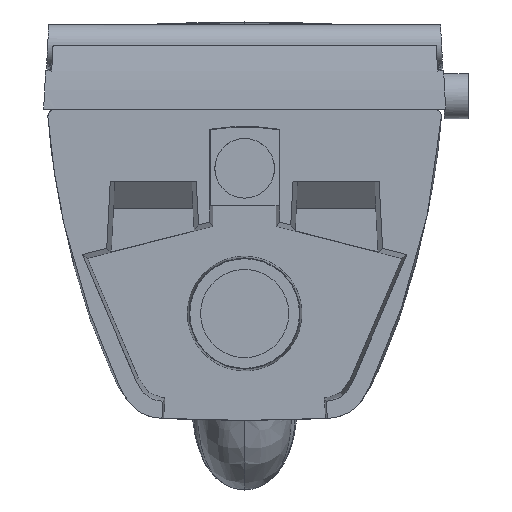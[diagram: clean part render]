
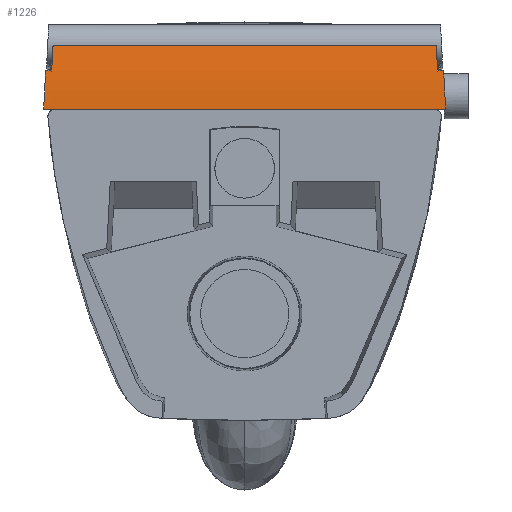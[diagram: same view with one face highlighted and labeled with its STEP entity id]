
A CAD part, left-side view. The second image highlights one B-rep face of the part: STEP entity #1226.
In plain terms, the highlighted cylindrical face has radius 364.592 mm (diameter 729.185 mm), a partial arc.
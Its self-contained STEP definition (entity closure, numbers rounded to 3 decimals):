
#63=ELLIPSE('',#4089,365.112,364.592);
#67=ELLIPSE('',#4095,365.112,364.592);
#68=ELLIPSE('',#4096,6902.849,364.592);
#69=ELLIPSE('',#4097,6950.963,364.592);
#70=ELLIPSE('',#4098,6950.963,364.592);
#71=ELLIPSE('',#4099,6902.848,364.592);
#118=CYLINDRICAL_SURFACE('',#4100,364.592);
#302=FACE_OUTER_BOUND('',#1569,.T.);
#483=LINE('',#10340,#635);
#508=LINE('',#22526,#666);
#511=LINE('',#22583,#669);
#512=LINE('',#22585,#670);
#517=LINE('',#22768,#675);
#635=VECTOR('',#4303,1.);
#666=VECTOR('',#4400,1.);
#669=VECTOR('',#4407,1.);
#670=VECTOR('',#4408,1.);
#675=VECTOR('',#4443,1.);
#846=B_SPLINE_CURVE_WITH_KNOTS('',3,(#9723,#9724,#9725,#9726),
 .UNSPECIFIED.,.F.,.F.,(4,4),(0.,1.),.UNSPECIFIED.);
#857=B_SPLINE_CURVE_WITH_KNOTS('',3,(#9891,#9892,#9893,#9894),
 .UNSPECIFIED.,.F.,.F.,(4,4),(0.,1.),.UNSPECIFIED.);
#916=B_SPLINE_CURVE_WITH_KNOTS('',3,(#22763,#22764,#22765,#22766),
 .UNSPECIFIED.,.F.,.F.,(4,4),(0.,1.),.UNSPECIFIED.);
#917=B_SPLINE_CURVE_WITH_KNOTS('',3,(#22770,#22771,#22772,#22773),
 .UNSPECIFIED.,.F.,.F.,(4,4),(0.,1.),.UNSPECIFIED.);
#1226=ADVANCED_FACE('',(#302),#118,.T.);
#1569=EDGE_LOOP('',(#2152,#2153,#2154,#2155,#2156,#2157,#2158,#2159,#2160,
#2161,#2162,#2163,#2164,#2165,#2166));
#2152=ORIENTED_EDGE('',*,*,#3511,.T.);
#2153=ORIENTED_EDGE('',*,*,#3498,.T.);
#2154=ORIENTED_EDGE('',*,*,#3584,.T.);
#2155=ORIENTED_EDGE('',*,*,#3583,.T.);
#2156=ORIENTED_EDGE('',*,*,#3612,.T.);
#2157=ORIENTED_EDGE('',*,*,#3613,.F.);
#2158=ORIENTED_EDGE('',*,*,#3614,.F.);
#2159=ORIENTED_EDGE('',*,*,#3615,.T.);
#2160=ORIENTED_EDGE('',*,*,#3616,.F.);
#2161=ORIENTED_EDGE('',*,*,#3617,.T.);
#2162=ORIENTED_EDGE('',*,*,#3618,.F.);
#2163=ORIENTED_EDGE('',*,*,#3619,.F.);
#2164=ORIENTED_EDGE('',*,*,#3598,.T.);
#2165=ORIENTED_EDGE('',*,*,#3574,.T.);
#2166=ORIENTED_EDGE('',*,*,#3509,.T.);
#3065=VERTEX_POINT('',#9727);
#3066=VERTEX_POINT('',#9728);
#3067=VERTEX_POINT('',#9890);
#3068=VERTEX_POINT('',#9895);
#3104=VERTEX_POINT('',#22527);
#3111=VERTEX_POINT('',#22582);
#3112=VERTEX_POINT('',#22584);
#3124=VERTEX_POINT('',#22676);
#3135=VERTEX_POINT('',#22758);
#3136=VERTEX_POINT('',#22760);
#3137=VERTEX_POINT('',#22762);
#3138=VERTEX_POINT('',#22767);
#3139=VERTEX_POINT('',#22769);
#3140=VERTEX_POINT('',#22774);
#3141=VERTEX_POINT('',#22776);
#3498=EDGE_CURVE('',#3065,#3066,#846,.T.);
#3509=EDGE_CURVE('',#3068,#3067,#857,.T.);
#3511=EDGE_CURVE('',#3067,#3065,#483,.T.);
#3574=EDGE_CURVE('',#3104,#3068,#508,.T.);
#3583=EDGE_CURVE('',#3112,#3111,#511,.T.);
#3584=EDGE_CURVE('',#3066,#3112,#512,.T.);
#3598=EDGE_CURVE('',#3124,#3104,#63,.T.);
#3612=EDGE_CURVE('',#3111,#3135,#67,.T.);
#3613=EDGE_CURVE('',#3136,#3135,#68,.T.);
#3614=EDGE_CURVE('',#3137,#3136,#69,.T.);
#3615=EDGE_CURVE('',#3137,#3138,#916,.T.);
#3616=EDGE_CURVE('',#3139,#3138,#517,.T.);
#3617=EDGE_CURVE('',#3139,#3140,#917,.T.);
#3618=EDGE_CURVE('',#3141,#3140,#70,.T.);
#3619=EDGE_CURVE('',#3124,#3141,#71,.T.);
#4089=AXIS2_PLACEMENT_3D('',#22675,#4422,#4423);
#4095=AXIS2_PLACEMENT_3D('',#22757,#4437,#4438);
#4096=AXIS2_PLACEMENT_3D('',#22759,#4439,#4440);
#4097=AXIS2_PLACEMENT_3D('',#22761,#4441,#4442);
#4098=AXIS2_PLACEMENT_3D('',#22775,#4444,#4445);
#4099=AXIS2_PLACEMENT_3D('',#22777,#4446,#4447);
#4100=AXIS2_PLACEMENT_3D('',#22778,#4448,#4449);
#4303=DIRECTION('',(0.,-1.,0.));
#4400=DIRECTION('',(0.,-1.,0.));
#4407=DIRECTION('',(0.,-1.,0.));
#4408=DIRECTION('',(0.,-1.,0.));
#4422=DIRECTION('',(-0.01,-0.999,-0.052));
#4423=DIRECTION('',(0.183,-0.053,0.982));
#4437=DIRECTION('',(-0.01,0.999,-0.052));
#4438=DIRECTION('',(-0.183,-0.053,-0.982));
#4439=DIRECTION('',(0.047,0.053,0.997));
#4440=DIRECTION('',(0.002,-0.999,0.053));
#4441=DIRECTION('',(0.047,0.052,0.998));
#4442=DIRECTION('',(0.002,-0.999,0.052));
#4443=DIRECTION('',(0.,-1.,0.));
#4444=DIRECTION('',(0.047,-0.052,0.998));
#4445=DIRECTION('',(-0.002,-0.999,-0.052));
#4446=DIRECTION('',(0.047,-0.053,0.997));
#4447=DIRECTION('',(-0.002,-0.999,-0.053));
#4448=DIRECTION('',(0.,-1.,0.));
#4449=DIRECTION('',(0.,0.,1.));
#9723=CARTESIAN_POINT('',(47.36,-176.008,0.));
#9724=CARTESIAN_POINT('',(47.36,-176.134,0.));
#9725=CARTESIAN_POINT('',(47.36,-176.261,-0.003));
#9726=CARTESIAN_POINT('',(47.36,-176.387,-0.01));
#9727=CARTESIAN_POINT('',(47.36,-176.008,0.));
#9728=CARTESIAN_POINT('',(47.36,-176.387,-0.01));
#9890=CARTESIAN_POINT('',(47.36,176.007,0.));
#9891=CARTESIAN_POINT('',(47.36,176.387,-0.01));
#9892=CARTESIAN_POINT('',(47.36,176.261,-0.003));
#9893=CARTESIAN_POINT('',(47.36,176.134,0.));
#9894=CARTESIAN_POINT('',(47.36,176.007,0.));
#9895=CARTESIAN_POINT('',(47.36,176.387,-0.01));
#10340=CARTESIAN_POINT('',(47.36,3504.591,0.));
#22526=CARTESIAN_POINT('',(47.36,3504.591,-0.01));
#22527=CARTESIAN_POINT('',(47.36,186.909,-0.01));
#22582=CARTESIAN_POINT('',(47.36,-186.909,-0.01));
#22583=CARTESIAN_POINT('',(47.36,3504.591,-0.01));
#22584=CARTESIAN_POINT('',(47.36,-176.427,-0.01));
#22585=CARTESIAN_POINT('',(47.36,3504.591,-0.01));
#22675=CARTESIAN_POINT('',(411.815,183.862,-10.022));
#22676=CARTESIAN_POINT('',(50.113,185.003,35.797));
#22757=CARTESIAN_POINT('',(411.815,-183.862,-10.022));
#22758=CARTESIAN_POINT('',(50.113,-185.003,35.797));
#22759=CARTESIAN_POINT('',(411.815,356.792,-10.022));
#22760=CARTESIAN_POINT('',(50.109,-184.389,35.765));
#22761=CARTESIAN_POINT('',(411.815,360.514,-10.022));
#22762=CARTESIAN_POINT('',(50.076,-179.395,35.504));
#22763=CARTESIAN_POINT('',(50.076,-179.395,35.504));
#22764=CARTESIAN_POINT('',(51.157,-178.944,44.093));
#22765=CARTESIAN_POINT('',(52.472,-178.524,52.079));
#22766=CARTESIAN_POINT('',(53.904,-178.135,59.46));
#22767=CARTESIAN_POINT('',(53.904,-178.135,59.46));
#22768=CARTESIAN_POINT('',(53.904,0.,59.46));
#22769=CARTESIAN_POINT('',(53.904,178.135,59.46));
#22770=CARTESIAN_POINT('',(53.904,178.135,59.46));
#22771=CARTESIAN_POINT('',(52.471,178.524,52.078));
#22772=CARTESIAN_POINT('',(51.157,178.944,44.093));
#22773=CARTESIAN_POINT('',(50.076,179.395,35.504));
#22774=CARTESIAN_POINT('',(50.076,179.395,35.504));
#22775=CARTESIAN_POINT('',(411.815,-360.514,-10.022));
#22776=CARTESIAN_POINT('',(50.109,184.389,35.765));
#22777=CARTESIAN_POINT('',(411.815,-356.786,-10.022));
#22778=CARTESIAN_POINT('',(411.815,3504.591,-10.022));
